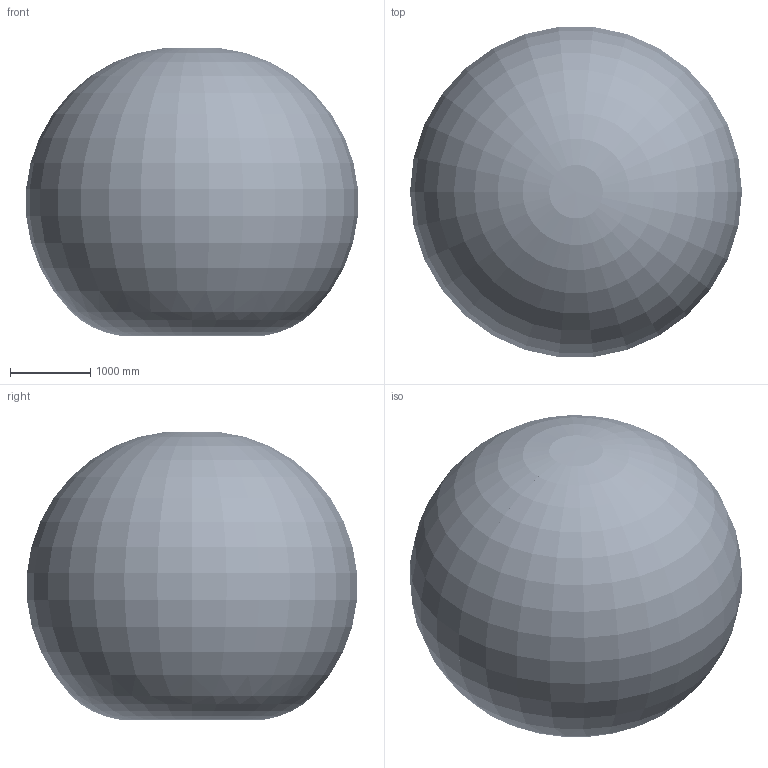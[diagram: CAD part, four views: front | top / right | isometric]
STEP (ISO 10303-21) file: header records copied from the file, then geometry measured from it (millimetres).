
FILE_DESCRIPTION (( 'STEP AP214' ), '1' );
FILE_NAME ('GP35H.STEP', '2024-09-10T11:37:16', ( '' ), ( '' ), 'SwSTEP 2.0', 'SolidWorks 2024', '' );
FILE_SCHEMA (( 'AUTOMOTIVE_DESIGN' ));
Length unit declared in the file: millimetre
Products named in the file (9): GP35H_U_AXIS^GP35H; GP35H_R_AXIS^GP35H; GP35H_L_AXIS^GP35H; GP35H_S_AXIS^GP35H; GP35H_BASE_AXIS^GP35H; GP35_T_AXIS^GP35H; GP35H; [ Range GP35H ]^GP35H; GP35H_B_AXIS^GP35H
Assembly tree (8 placements, depth 2):
  GP35H
    GP35H_BASE_AXIS^GP35H
    GP35H_S_AXIS^GP35H
    GP35H_L_AXIS^GP35H
    GP35H_U_AXIS^GP35H
    GP35H_R_AXIS^GP35H
    GP35H_B_AXIS^GP35H
    GP35_T_AXIS^GP35H
    [ Range GP35H ]^GP35H
Bounding box: 4127.33 x 4104.74 x 3589.73 mm (x, y, z)
Volume: 33741164329.8 mm3; surface area: 74123254.3 mm2
Topology: 5 solids, 35 shells, 10600 faces, 26869 edges, 16903 vertices
Faces by surface type: cylinder 3828, plane 3771, bspline 1765, cone 905, torus 283, sphere 48
Entity records: 518244 total; most frequent: CARTESIAN_POINT 276198, ORIENTED_EDGE 53352, DIRECTION 45594, EDGE_CURVE 26718, AXIS2_PLACEMENT_3D 17500, VERTEX_POINT 16901, EDGE_LOOP 11671, FACE_OUTER_BOUND 10602
